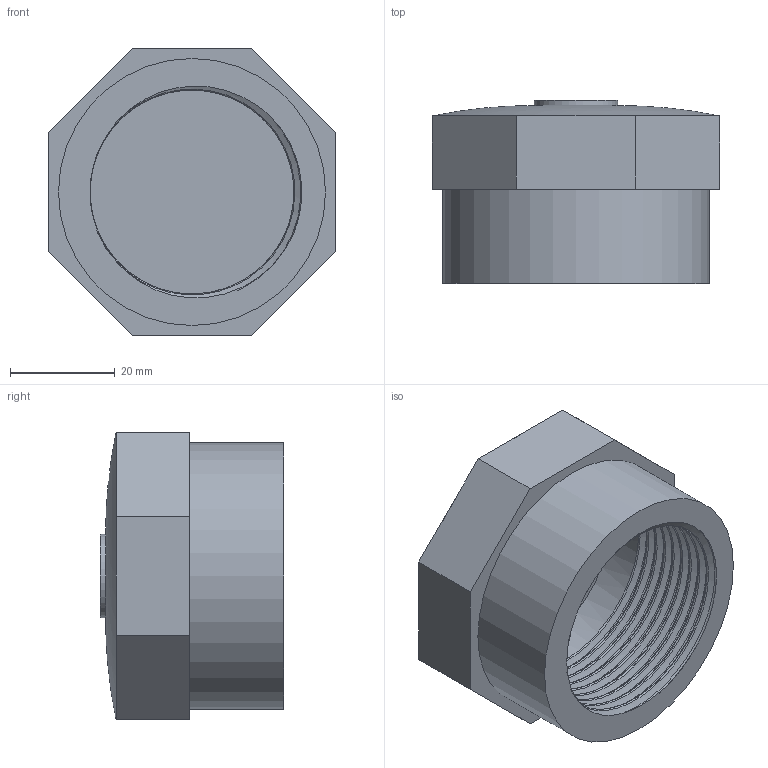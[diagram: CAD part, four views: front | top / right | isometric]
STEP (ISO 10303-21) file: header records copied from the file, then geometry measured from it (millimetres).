
FILE_DESCRIPTION(/* description */ ('PVC calotta filettata BSP'),/* implementation_level */ '2;1');
FILE_NAME(/* name */ 'C:\Users\POLYPIPE\Desktop\DATASET INVENTOR\LIBRERIA EFFAST\RACCORDI 3DxWEB\RER\3D_RERCAE\3D_RERCAE040E.stp',/* time_stamp */ '2018-01-19T15:57:25+01:00',/* author */ ('POLYPIPE'),/* organization */ ('Polypipe Italia s.r.l.'),/* preprocessor_version */ 'ST-DEVELOPER v16.1',/* originating_system */ 'Autodesk Inventor 2016',/* authorisation */ '');
FILE_SCHEMA (('CONFIG_CONTROL_DESIGN'));
Length unit declared in the file: millimetre
Products named in the file (1): 3D_RERCAE
Bounding box: 55 x 35 x 55 mm (x, y, z)
Volume: 40909.3 mm3; surface area: 15653.3 mm2
Topology: 1 solids, 1 shells, 30 faces, 68 edges, 42 vertices
Faces by surface type: plane 21, bspline 6, cylinder 3
Full cylindrical faces by diameter (mm): 16 x1, 38.952 x1, 51 x1
Entity records: 4197 total; most frequent: CARTESIAN_POINT 3548, ORIENTED_EDGE 128, DIRECTION 119, EDGE_CURVE 64, AXIS2_PLACEMENT_3D 42, VERTEX_POINT 41, LINE 35, VECTOR 35
